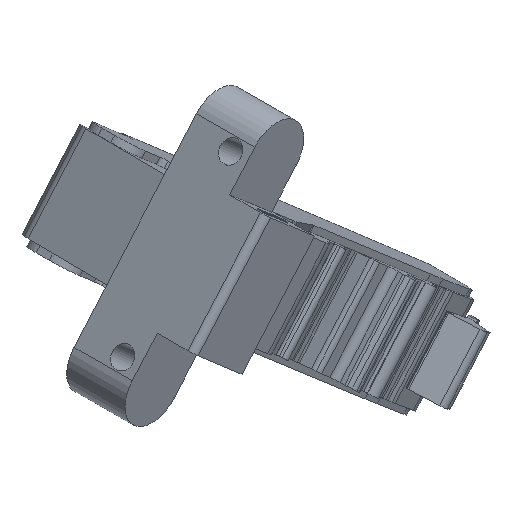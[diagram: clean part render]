
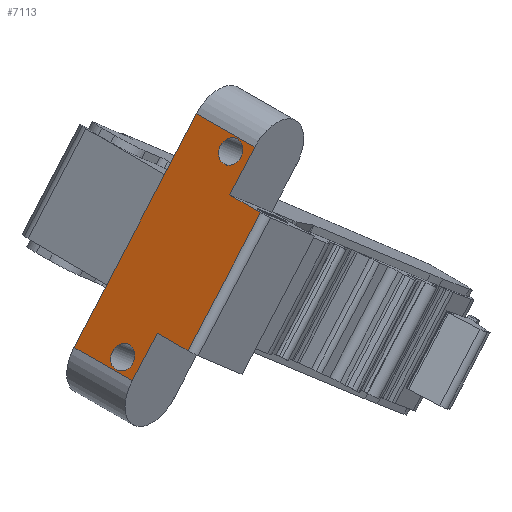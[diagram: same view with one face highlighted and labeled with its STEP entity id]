
A CAD part, isometric view. The second image highlights one B-rep face of the part: STEP entity #7113.
In plain terms, the highlighted planar face has unit normal (-0.755, -0.029, 0.655).
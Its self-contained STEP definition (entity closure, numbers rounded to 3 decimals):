
#241 = EDGE_CURVE ( 'NONE', #5207, #4317, #10065, .T. ) ;
#354 = AXIS2_PLACEMENT_3D ( 'NONE', #9273, #7651, #10945 ) ;
#366 = DIRECTION ( 'NONE',  ( 0.755, 0.029, -0.655 ) ) ;
#377 = DIRECTION ( 'NONE',  ( 0.755, 0.029, -0.655 ) ) ;
#469 = VERTEX_POINT ( 'NONE', #9497 ) ;
#486 = DIRECTION ( 'NONE',  ( -0.435, 0.77, -0.467 ) ) ;
#489 = VERTEX_POINT ( 'NONE', #4477 ) ;
#548 = VECTOR ( 'NONE', #6007, 1000. ) ;
#600 = VERTEX_POINT ( 'NONE', #6116 ) ;
#626 = EDGE_CURVE ( 'NONE', #7033, #8829, #1768, .T. ) ;
#966 = LINE ( 'NONE', #7770, #1829 ) ;
#1000 = VECTOR ( 'NONE', #8419, 1000. ) ;
#1181 = CARTESIAN_POINT ( 'NONE',  ( -40.21, -15.49, 57.597 ) ) ;
#1249 = CARTESIAN_POINT ( 'NONE',  ( -59.654, -22.387, 34.882 ) ) ;
#1304 = CARTESIAN_POINT ( 'NONE',  ( -42.416, -22.387, 54.745 ) ) ;
#1416 = DIRECTION ( 'NONE',  ( 0.022, -1., -0.019 ) ) ;
#1451 = AXIS2_PLACEMENT_3D ( 'NONE', #5494, #9561, #8888 ) ;
#1456 = CARTESIAN_POINT ( 'NONE',  ( -44.384, -19.388, 52.613 ) ) ;
#1538 = ORIENTED_EDGE ( 'NONE', *, *, #9146, .F. ) ;
#1551 = CARTESIAN_POINT ( 'NONE',  ( -60.768, -22.387, 33.598 ) ) ;
#1689 = DIRECTION ( 'NONE',  ( 0.655, 0., 0.755 ) ) ;
#1714 = FACE_OUTER_BOUND ( 'NONE', #5316, .T. ) ;
#1768 = LINE ( 'NONE', #10241, #548 ) ;
#1829 = VECTOR ( 'NONE', #1689, 1000. ) ;
#1948 = LINE ( 'NONE', #10531, #11034 ) ;
#2029 = DIRECTION ( 'NONE',  ( -0.655, 0., -0.755 ) ) ;
#2135 = EDGE_CURVE ( 'NONE', #7033, #7700, #9845, .T. ) ;
#2363 = CARTESIAN_POINT ( 'NONE',  ( -55.48, -30.309, 39.336 ) ) ;
#2487 = VECTOR ( 'NONE', #2029, 1000. ) ;
#2498 = CARTESIAN_POINT ( 'NONE',  ( -45.124, -30.309, 51.27 ) ) ;
#2701 = AXIS2_PLACEMENT_3D ( 'NONE', #3672, #366, #7068 ) ;
#2753 = CARTESIAN_POINT ( 'NONE',  ( -56.463, -30.309, 38.204 ) ) ;
#2776 = LINE ( 'NONE', #4454, #3746 ) ;
#2844 = ORIENTED_EDGE ( 'NONE', *, *, #7691, .T. ) ;
#2959 = CARTESIAN_POINT ( 'NONE',  ( -44.141, -30.309, 52.402 ) ) ;
#3038 = EDGE_CURVE ( 'NONE', #10879, #6197, #11012, .T. ) ;
#3264 = CARTESIAN_POINT ( 'NONE',  ( -29.033, -30.309, 69.811 ) ) ;
#3284 = EDGE_LOOP ( 'NONE', ( #5672, #8646 ) ) ;
#3446 = FACE_BOUND ( 'NONE', #9758, .T. ) ;
#3672 = CARTESIAN_POINT ( 'NONE',  ( -61.052, -15.49, 33.58 ) ) ;
#3725 = PLANE ( 'NONE',  #2701 ) ;
#3746 = VECTOR ( 'NONE', #7855, 1000. ) ;
#3757 = CARTESIAN_POINT ( 'NONE',  ( -29.033, -30.309, 69.811 ) ) ;
#3855 = VECTOR ( 'NONE', #10537, 1000. ) ;
#4005 = CARTESIAN_POINT ( 'NONE',  ( -61.052, -15.49, 33.58 ) ) ;
#4304 = AXIS2_PLACEMENT_3D ( 'NONE', #1249, #4655, #8719 ) ;
#4317 = VERTEX_POINT ( 'NONE', #5139 ) ;
#4342 = CARTESIAN_POINT ( 'NONE',  ( -53.415, -30.309, 41.716 ) ) ;
#4384 = AXIS2_PLACEMENT_3D ( 'NONE', #9812, #377, #486 ) ;
#4395 = VECTOR ( 'NONE', #1416, 1000. ) ;
#4454 = CARTESIAN_POINT ( 'NONE',  ( -56.706, -19.388, 38.414 ) ) ;
#4477 = CARTESIAN_POINT ( 'NONE',  ( -58.54, -22.387, 36.166 ) ) ;
#4481 = LINE ( 'NONE', #3757, #2487 ) ;
#4501 = ORIENTED_EDGE ( 'NONE', *, *, #9563, .F. ) ;
#4655 = DIRECTION ( 'NONE',  ( 0.755, 0.029, -0.655 ) ) ;
#5035 = ORIENTED_EDGE ( 'NONE', *, *, #626, .F. ) ;
#5064 = VERTEX_POINT ( 'NONE', #5394 ) ;
#5090 = CARTESIAN_POINT ( 'NONE',  ( -53.415, -30.309, 41.716 ) ) ;
#5139 = CARTESIAN_POINT ( 'NONE',  ( -53.415, -30.309, 41.716 ) ) ;
#5207 = VERTEX_POINT ( 'NONE', #9113 ) ;
#5316 = EDGE_LOOP ( 'NONE', ( #2844, #8157, #5035, #5915, #6416, #1538, #4501, #5318, #5988, #8295, #9207 ) ) ;
#5318 = ORIENTED_EDGE ( 'NONE', *, *, #241, .T. ) ;
#5394 = CARTESIAN_POINT ( 'NONE',  ( -39.994, -25.185, 57.41 ) ) ;
#5494 = CARTESIAN_POINT ( 'NONE',  ( -41.302, -22.387, 56.029 ) ) ;
#5672 = ORIENTED_EDGE ( 'NONE', *, *, #9462, .T. ) ;
#5772 = EDGE_CURVE ( 'NONE', #7700, #469, #8969, .T. ) ;
#5775 = EDGE_CURVE ( 'NONE', #9958, #489, #8289, .T. ) ;
#5915 = ORIENTED_EDGE ( 'NONE', *, *, #2135, .T. ) ;
#5938 = CARTESIAN_POINT ( 'NONE',  ( -44.255, -25.185, 52.501 ) ) ;
#5988 = ORIENTED_EDGE ( 'NONE', *, *, #9066, .T. ) ;
#6007 = DIRECTION ( 'NONE',  ( 0.655, 0., 0.755 ) ) ;
#6116 = CARTESIAN_POINT ( 'NONE',  ( -40.188, -22.387, 57.313 ) ) ;
#6172 = CARTESIAN_POINT ( 'NONE',  ( -45.124, -30.309, 51.27 ) ) ;
#6197 = VERTEX_POINT ( 'NONE', #6172 ) ;
#6265 = CIRCLE ( 'NONE', #1451, 1.7 ) ;
#6401 = EDGE_CURVE ( 'NONE', #9265, #10879, #9142, .T. ) ;
#6416 = ORIENTED_EDGE ( 'NONE', *, *, #5772, .T. ) ;
#6443 = CARTESIAN_POINT ( 'NONE',  ( -61.052, -15.49, 33.58 ) ) ;
#6736 = CARTESIAN_POINT ( 'NONE',  ( -50.652, -30.309, 44.9 ) ) ;
#6816 = CARTESIAN_POINT ( 'NONE',  ( -54.792, -30.309, 40.13 ) ) ;
#6818 = CARTESIAN_POINT ( 'NONE',  ( -60.837, -25.185, 33.393 ) ) ;
#6964 = ORIENTED_EDGE ( 'NONE', *, *, #5775, .T. ) ;
#7033 = VERTEX_POINT ( 'NONE', #4005 ) ;
#7068 = DIRECTION ( 'NONE',  ( -0.655, 0., -0.755 ) ) ;
#7113 = ADVANCED_FACE ( 'NONE', ( #1714, #3446, #10525 ), #3725, .F. ) ;
#7223 = ORIENTED_EDGE ( 'NONE', *, *, #8600, .T. ) ;
#7651 = DIRECTION ( 'NONE',  ( 0.755, 0.029, -0.655 ) ) ;
#7691 = EDGE_CURVE ( 'NONE', #9265, #5064, #966, .T. ) ;
#7700 = VERTEX_POINT ( 'NONE', #6818 ) ;
#7770 = CARTESIAN_POINT ( 'NONE',  ( -60.837, -25.185, 33.393 ) ) ;
#7843 = CIRCLE ( 'NONE', #354, 1.7 ) ;
#7855 = DIRECTION ( 'NONE',  ( -0.022, 1., 0.019 ) ) ;
#7896 = VERTEX_POINT ( 'NONE', #1304 ) ;
#8157 = ORIENTED_EDGE ( 'NONE', *, *, #9144, .F. ) ;
#8289 = CIRCLE ( 'NONE', #4384, 1.7 ) ;
#8295 = ORIENTED_EDGE ( 'NONE', *, *, #3038, .F. ) ;
#8419 = DIRECTION ( 'NONE',  ( 0.022, -1., -0.019 ) ) ;
#8574 = EDGE_CURVE ( 'NONE', #600, #7896, #6265, .T. ) ;
#8592 = VERTEX_POINT ( 'NONE', #2753 ) ;
#8600 = EDGE_CURVE ( 'NONE', #489, #9958, #9105, .T. ) ;
#8646 = ORIENTED_EDGE ( 'NONE', *, *, #8574, .T. ) ;
#8719 = DIRECTION ( 'NONE',  ( -0.435, 0.77, -0.467 ) ) ;
#8829 = VERTEX_POINT ( 'NONE', #1181 ) ;
#8888 = DIRECTION ( 'NONE',  ( -0.435, 0.77, -0.467 ) ) ;
#8931 = B_SPLINE_CURVE_WITH_KNOTS ( 'NONE', 3,
 ( #4342, #6736, #10139, #2498 ),
 .UNSPECIFIED., .F., .F.,
 ( 4, 4 ),
 ( 0., 1. ),
 .UNSPECIFIED. ) ;
#8969 = LINE ( 'NONE', #9020, #3855 ) ;
#9020 = CARTESIAN_POINT ( 'NONE',  ( -60.837, -25.185, 33.393 ) ) ;
#9066 = EDGE_CURVE ( 'NONE', #4317, #6197, #8931, .T. ) ;
#9105 = CIRCLE ( 'NONE', #4304, 1.7 ) ;
#9113 = CARTESIAN_POINT ( 'NONE',  ( -55.48, -30.309, 39.336 ) ) ;
#9142 = LINE ( 'NONE', #1456, #1000 ) ;
#9144 = EDGE_CURVE ( 'NONE', #8829, #5064, #1948, .T. ) ;
#9146 = EDGE_CURVE ( 'NONE', #8592, #469, #2776, .T. ) ;
#9207 = ORIENTED_EDGE ( 'NONE', *, *, #6401, .F. ) ;
#9265 = VERTEX_POINT ( 'NONE', #5938 ) ;
#9273 = CARTESIAN_POINT ( 'NONE',  ( -41.302, -22.387, 56.029 ) ) ;
#9462 = EDGE_CURVE ( 'NONE', #7896, #600, #7843, .T. ) ;
#9497 = CARTESIAN_POINT ( 'NONE',  ( -56.577, -25.185, 38.302 ) ) ;
#9561 = DIRECTION ( 'NONE',  ( 0.755, 0.029, -0.655 ) ) ;
#9563 = EDGE_CURVE ( 'NONE', #5207, #8592, #4481, .T. ) ;
#9758 = EDGE_LOOP ( 'NONE', ( #6964, #7223 ) ) ;
#9812 = CARTESIAN_POINT ( 'NONE',  ( -59.654, -22.387, 34.882 ) ) ;
#9845 = LINE ( 'NONE', #6443, #4395 ) ;
#9928 = VECTOR ( 'NONE', #10119, 1000. ) ;
#9958 = VERTEX_POINT ( 'NONE', #1551 ) ;
#10065 = B_SPLINE_CURVE_WITH_KNOTS ( 'NONE', 3,
 ( #2363, #6816, #10110, #5090 ),
 .UNSPECIFIED., .F., .F.,
 ( 4, 4 ),
 ( 0., 1. ),
 .UNSPECIFIED. ) ;
#10110 = CARTESIAN_POINT ( 'NONE',  ( -54.104, -30.309, 40.923 ) ) ;
#10119 = DIRECTION ( 'NONE',  ( -0.655, 0., -0.755 ) ) ;
#10139 = CARTESIAN_POINT ( 'NONE',  ( -47.888, -30.309, 48.085 ) ) ;
#10241 = CARTESIAN_POINT ( 'NONE',  ( -61.052, -15.49, 33.58 ) ) ;
#10364 = DIRECTION ( 'NONE',  ( 0.022, -1., -0.019 ) ) ;
#10525 = FACE_BOUND ( 'NONE', #3284, .T. ) ;
#10531 = CARTESIAN_POINT ( 'NONE',  ( -40.21, -15.49, 57.597 ) ) ;
#10537 = DIRECTION ( 'NONE',  ( 0.655, 0., 0.755 ) ) ;
#10879 = VERTEX_POINT ( 'NONE', #2959 ) ;
#10945 = DIRECTION ( 'NONE',  ( -0.435, 0.77, -0.467 ) ) ;
#11012 = LINE ( 'NONE', #3264, #9928 ) ;
#11034 = VECTOR ( 'NONE', #10364, 1000. ) ;
